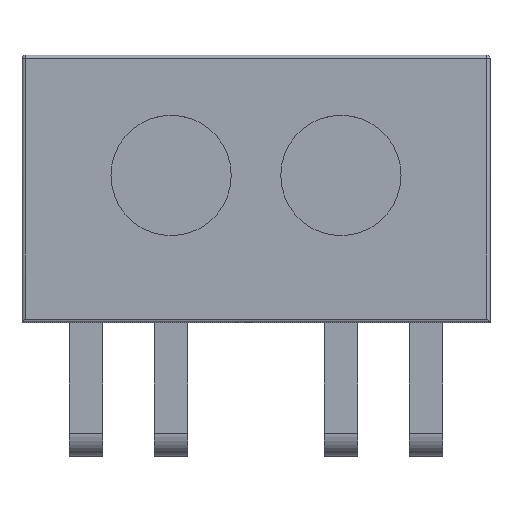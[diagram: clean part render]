
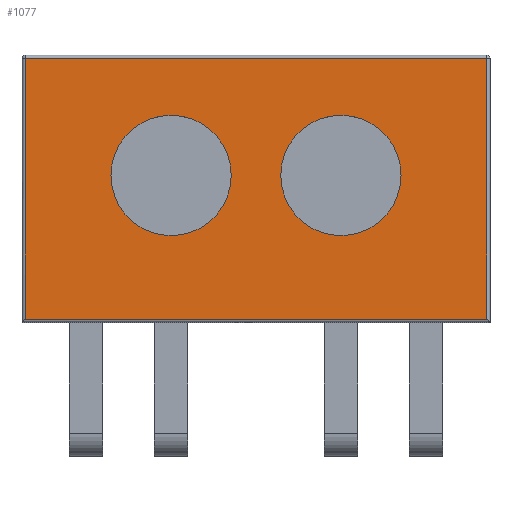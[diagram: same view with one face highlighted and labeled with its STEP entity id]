
A CAD part, top view. The second image highlights one B-rep face of the part: STEP entity #1077.
In plain terms, the highlighted planar face has unit normal (0, 0, 1).
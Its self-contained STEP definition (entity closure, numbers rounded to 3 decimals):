
#27=FACE_BOUND('',#181,.T.);
#28=FACE_BOUND('',#182,.T.);
#56=PLANE('',#1184);
#107=FACE_OUTER_BOUND('',#180,.T.);
#180=EDGE_LOOP('',(#780,#781,#782,#783));
#181=EDGE_LOOP('',(#784));
#182=EDGE_LOOP('',(#785));
#247=LINE('',#1673,#350);
#250=LINE('',#1679,#353);
#252=LINE('',#1685,#355);
#253=LINE('',#1688,#356);
#350=VECTOR('',#1331,10.);
#353=VECTOR('',#1336,10.);
#355=VECTOR('',#1342,10.);
#356=VECTOR('',#1347,10.);
#445=CIRCLE('',#1155,0.9);
#447=CIRCLE('',#1159,0.9);
#475=VERTEX_POINT('',#1630);
#477=VERTEX_POINT('',#1637);
#484=VERTEX_POINT('',#1654);
#487=VERTEX_POINT('',#1664);
#490=VERTEX_POINT('',#1678);
#492=VERTEX_POINT('',#1684);
#571=EDGE_CURVE('',#475,#475,#445,.T.);
#574=EDGE_CURVE('',#477,#477,#447,.T.);
#591=EDGE_CURVE('',#484,#487,#247,.T.);
#594=EDGE_CURVE('',#487,#490,#250,.T.);
#597=EDGE_CURVE('',#490,#492,#252,.T.);
#599=EDGE_CURVE('',#492,#484,#253,.T.);
#780=ORIENTED_EDGE('',*,*,#591,.F.);
#781=ORIENTED_EDGE('',*,*,#599,.F.);
#782=ORIENTED_EDGE('',*,*,#597,.F.);
#783=ORIENTED_EDGE('',*,*,#594,.F.);
#784=ORIENTED_EDGE('',*,*,#571,.T.);
#785=ORIENTED_EDGE('',*,*,#574,.T.);
#1077=ADVANCED_FACE('',(#107,#27,#28),#56,.T.);
#1155=AXIS2_PLACEMENT_3D('',#1631,#1281,#1282);
#1159=AXIS2_PLACEMENT_3D('',#1638,#1290,#1291);
#1184=AXIS2_PLACEMENT_3D('',#1699,#1359,#1360);
#1281=DIRECTION('center_axis',(0.,0.,-1.));
#1282=DIRECTION('ref_axis',(1.,0.,0.));
#1290=DIRECTION('center_axis',(0.,0.,-1.));
#1291=DIRECTION('ref_axis',(1.,0.,0.));
#1331=DIRECTION('',(1.,0.,0.));
#1336=DIRECTION('',(0.,-1.,0.));
#1342=DIRECTION('',(-1.,0.,0.));
#1347=DIRECTION('',(0.,1.,0.));
#1359=DIRECTION('center_axis',(0.,0.,1.));
#1360=DIRECTION('ref_axis',(1.,0.,0.));
#1630=CARTESIAN_POINT('',(1.33,2.2,2.5));
#1631=CARTESIAN_POINT('Origin',(2.23,2.2,2.5));
#1637=CARTESIAN_POINT('',(3.87,2.2,2.5));
#1638=CARTESIAN_POINT('Origin',(4.77,2.2,2.5));
#1654=CARTESIAN_POINT('',(0.05,3.95,2.5));
#1664=CARTESIAN_POINT('',(6.95,3.95,2.5));
#1673=CARTESIAN_POINT('',(5.25,3.95,2.5));
#1678=CARTESIAN_POINT('',(6.95,0.05,2.5));
#1679=CARTESIAN_POINT('',(6.95,1.,2.5));
#1684=CARTESIAN_POINT('',(0.05,0.05,2.5));
#1685=CARTESIAN_POINT('',(1.75,0.05,2.5));
#1688=CARTESIAN_POINT('',(0.05,3.,2.5));
#1699=CARTESIAN_POINT('Origin',(3.5,2.,2.5));
